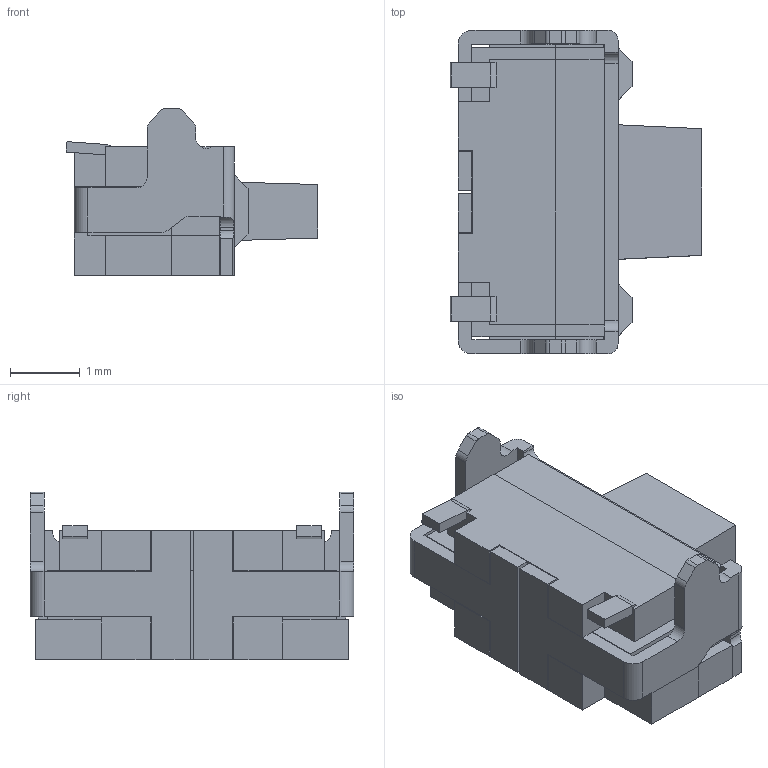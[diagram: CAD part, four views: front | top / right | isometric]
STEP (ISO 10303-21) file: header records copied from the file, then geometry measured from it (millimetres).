
FILE_DESCRIPTION((''),'2;1');
FILE_NAME('JQD1846-B0351-01AG-1-105_ASM','2026-05-31T12:04:24',('Admin'),(''),'CREO PARAMETRIC BY PTC INC, 2019224','CREO PARAMETRIC BY PTC INC, 2019224','');
FILE_SCHEMA(('AUTOMOTIVE_DESIGN { 1 0 10303 214 1 1 1 1 }'));
Length unit declared in the file: millimetre
Products named in the file (3): JQD1846-B0351-01AG-1-105_06; JQD1846-B0351-01AG-1-105_07; JQD1846-B0351-01AG-1-105_ASM
Assembly tree (2 placements, depth 2):
  JQD1846-B0351-01AG-1-105_ASM
    JQD1846-B0351-01AG-1-105_06
    JQD1846-B0351-01AG-1-105_07
Bounding box: 3.61 x 4.65 x 2.4 mm (x, y, z)
Volume: 15.8 mm3; surface area: 116.1 mm2
Topology: 5 solids, 9 shells, 260 faces, 730 edges, 490 vertices
Faces by surface type: plane 230, cylinder 30
Entity records: 11486 total; most frequent: CARTESIAN_POINT 1501, ORIENTED_EDGE 1412, DIRECTION 1326, PRESENTATION_STYLE_ASSIGNMENT 810, STYLED_ITEM 739, CURVE_STYLE 734, EDGE_CURVE 706, VECTOR 670
